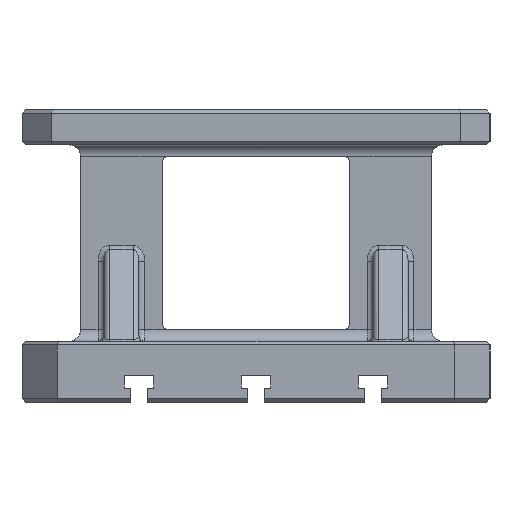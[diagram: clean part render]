
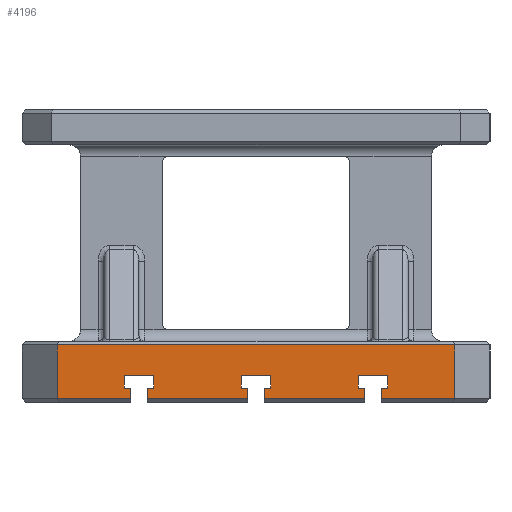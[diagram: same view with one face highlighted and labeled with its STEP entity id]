
A CAD part, left-side view. The second image highlights one B-rep face of the part: STEP entity #4196.
In plain terms, the highlighted planar face has unit normal (-1, 0, 0).
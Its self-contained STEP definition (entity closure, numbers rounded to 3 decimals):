
#141=DIRECTION('',(0.,0.,1.));
#142=VECTOR('',#141,9.);
#143=CARTESIAN_POINT('',(-400.,-107.,-23.));
#144=LINE('',#143,#142);
#145=DIRECTION('',(0.,-1.,0.));
#146=VECTOR('',#145,5.5);
#147=CARTESIAN_POINT('',(-400.,-107.,-14.));
#148=LINE('',#147,#146);
#149=DIRECTION('',(0.,0.,1.));
#150=VECTOR('',#149,11.);
#151=CARTESIAN_POINT('',(-400.,-112.5,-14.));
#152=LINE('',#151,#150);
#153=DIRECTION('',(0.,1.,0.));
#154=VECTOR('',#153,25.);
#155=CARTESIAN_POINT('',(-400.,-112.5,-3.));
#156=LINE('',#155,#154);
#157=DIRECTION('',(0.,0.,-1.));
#158=VECTOR('',#157,11.);
#159=CARTESIAN_POINT('',(-400.,-87.5,-3.));
#160=LINE('',#159,#158);
#161=DIRECTION('',(0.,-1.,0.));
#162=VECTOR('',#161,5.5);
#163=CARTESIAN_POINT('',(-400.,-87.5,-14.));
#164=LINE('',#163,#162);
#165=DIRECTION('',(0.,0.,1.));
#166=VECTOR('',#165,9.);
#167=CARTESIAN_POINT('',(-400.,-93.,-23.));
#168=LINE('',#167,#166);
#169=DIRECTION('',(0.,1.,0.));
#170=VECTOR('',#169,86.);
#171=CARTESIAN_POINT('',(-400.,-93.,-23.));
#172=LINE('',#171,#170);
#173=DIRECTION('',(0.,0.,1.));
#174=VECTOR('',#173,9.);
#175=CARTESIAN_POINT('',(-400.,-7.,-23.));
#176=LINE('',#175,#174);
#177=DIRECTION('',(0.,-1.,0.));
#178=VECTOR('',#177,5.5);
#179=CARTESIAN_POINT('',(-400.,-7.,-14.));
#180=LINE('',#179,#178);
#181=DIRECTION('',(0.,0.,1.));
#182=VECTOR('',#181,11.);
#183=CARTESIAN_POINT('',(-400.,-12.5,-14.));
#184=LINE('',#183,#182);
#185=DIRECTION('',(0.,1.,0.));
#186=VECTOR('',#185,25.);
#187=CARTESIAN_POINT('',(-400.,-12.5,-3.));
#188=LINE('',#187,#186);
#189=DIRECTION('',(0.,0.,-1.));
#190=VECTOR('',#189,11.);
#191=CARTESIAN_POINT('',(-400.,12.5,-3.));
#192=LINE('',#191,#190);
#193=DIRECTION('',(0.,-1.,0.));
#194=VECTOR('',#193,5.5);
#195=CARTESIAN_POINT('',(-400.,12.5,-14.));
#196=LINE('',#195,#194);
#197=DIRECTION('',(0.,0.,1.));
#198=VECTOR('',#197,9.);
#199=CARTESIAN_POINT('',(-400.,7.,-23.));
#200=LINE('',#199,#198);
#201=DIRECTION('',(0.,1.,0.));
#202=VECTOR('',#201,86.);
#203=CARTESIAN_POINT('',(-400.,7.,-23.));
#204=LINE('',#203,#202);
#205=DIRECTION('',(0.,0.,1.));
#206=VECTOR('',#205,9.);
#207=CARTESIAN_POINT('',(-400.,93.,-23.));
#208=LINE('',#207,#206);
#209=DIRECTION('',(0.,-1.,0.));
#210=VECTOR('',#209,5.5);
#211=CARTESIAN_POINT('',(-400.,93.,-14.));
#212=LINE('',#211,#210);
#213=DIRECTION('',(0.,0.,1.));
#214=VECTOR('',#213,11.);
#215=CARTESIAN_POINT('',(-400.,87.5,-14.));
#216=LINE('',#215,#214);
#217=DIRECTION('',(0.,1.,0.));
#218=VECTOR('',#217,25.);
#219=CARTESIAN_POINT('',(-400.,87.5,-3.));
#220=LINE('',#219,#218);
#221=DIRECTION('',(0.,0.,-1.));
#222=VECTOR('',#221,11.);
#223=CARTESIAN_POINT('',(-400.,112.5,-3.));
#224=LINE('',#223,#222);
#225=DIRECTION('',(0.,-1.,0.));
#226=VECTOR('',#225,5.5);
#227=CARTESIAN_POINT('',(-400.,112.5,-14.));
#228=LINE('',#227,#226);
#229=DIRECTION('',(0.,0.,1.));
#230=VECTOR('',#229,9.);
#231=CARTESIAN_POINT('',(-400.,107.,-23.));
#232=LINE('',#231,#230);
#233=DIRECTION('',(0.,1.,0.));
#234=VECTOR('',#233,63.);
#235=CARTESIAN_POINT('',(-400.,107.,-23.));
#236=LINE('',#235,#234);
#237=DIRECTION('',(0.,0.,-1.));
#238=VECTOR('',#237,46.);
#239=CARTESIAN_POINT('',(-400.,170.,23.));
#240=LINE('',#239,#238);
#241=DIRECTION('',(0.,-1.,0.));
#242=VECTOR('',#241,340.);
#243=CARTESIAN_POINT('',(-400.,170.,23.));
#244=LINE('',#243,#242);
#245=DIRECTION('',(0.,0.,-1.));
#246=VECTOR('',#245,46.);
#247=CARTESIAN_POINT('',(-400.,-170.,23.));
#248=LINE('',#247,#246);
#249=DIRECTION('',(0.,1.,0.));
#250=VECTOR('',#249,63.);
#251=CARTESIAN_POINT('',(-400.,-170.,-23.));
#252=LINE('',#251,#250);
#3139=CARTESIAN_POINT('',(-400.,170.,-23.));
#3141=VERTEX_POINT('',#3139);
#3169=CARTESIAN_POINT('',(-400.,-170.,-23.));
#3170=VERTEX_POINT('',#3169);
#3205=CARTESIAN_POINT('',(-400.,170.,23.));
#3206=VERTEX_POINT('',#3205);
#3215=CARTESIAN_POINT('',(-400.,-170.,23.));
#3216=VERTEX_POINT('',#3215);
#3801=CARTESIAN_POINT('',(-400.,-7.,-23.));
#3802=CARTESIAN_POINT('',(-400.,-7.,-14.));
#3803=VERTEX_POINT('',#3801);
#3804=VERTEX_POINT('',#3802);
#3805=CARTESIAN_POINT('',(-400.,-12.5,-14.));
#3806=VERTEX_POINT('',#3805);
#3807=CARTESIAN_POINT('',(-400.,-12.5,-3.));
#3808=VERTEX_POINT('',#3807);
#3809=CARTESIAN_POINT('',(-400.,12.5,-3.));
#3810=VERTEX_POINT('',#3809);
#3811=CARTESIAN_POINT('',(-400.,12.5,-14.));
#3812=VERTEX_POINT('',#3811);
#3813=CARTESIAN_POINT('',(-400.,7.,-14.));
#3814=VERTEX_POINT('',#3813);
#3815=CARTESIAN_POINT('',(-400.,7.,-23.));
#3816=VERTEX_POINT('',#3815);
#3841=CARTESIAN_POINT('',(-400.,93.,-23.));
#3842=CARTESIAN_POINT('',(-400.,93.,-14.));
#3843=VERTEX_POINT('',#3841);
#3844=VERTEX_POINT('',#3842);
#3845=CARTESIAN_POINT('',(-400.,87.5,-14.));
#3846=VERTEX_POINT('',#3845);
#3847=CARTESIAN_POINT('',(-400.,87.5,-3.));
#3848=VERTEX_POINT('',#3847);
#3849=CARTESIAN_POINT('',(-400.,112.5,-3.));
#3850=VERTEX_POINT('',#3849);
#3851=CARTESIAN_POINT('',(-400.,112.5,-14.));
#3852=VERTEX_POINT('',#3851);
#3853=CARTESIAN_POINT('',(-400.,107.,-14.));
#3854=VERTEX_POINT('',#3853);
#3855=CARTESIAN_POINT('',(-400.,107.,-23.));
#3856=VERTEX_POINT('',#3855);
#3881=CARTESIAN_POINT('',(-400.,-107.,-23.));
#3882=CARTESIAN_POINT('',(-400.,-107.,-14.));
#3883=VERTEX_POINT('',#3881);
#3884=VERTEX_POINT('',#3882);
#3885=CARTESIAN_POINT('',(-400.,-112.5,-14.));
#3886=VERTEX_POINT('',#3885);
#3887=CARTESIAN_POINT('',(-400.,-112.5,-3.));
#3888=VERTEX_POINT('',#3887);
#3889=CARTESIAN_POINT('',(-400.,-87.5,-3.));
#3890=VERTEX_POINT('',#3889);
#3891=CARTESIAN_POINT('',(-400.,-87.5,-14.));
#3892=VERTEX_POINT('',#3891);
#3893=CARTESIAN_POINT('',(-400.,-93.,-14.));
#3894=VERTEX_POINT('',#3893);
#3895=CARTESIAN_POINT('',(-400.,-93.,-23.));
#3896=VERTEX_POINT('',#3895);
#4139=CARTESIAN_POINT('',(-400.,200.,-26.));
#4140=DIRECTION('',(-1.,0.,0.));
#4141=DIRECTION('',(0.,-1.,0.));
#4142=AXIS2_PLACEMENT_3D('',#4139,#4140,#4141);
#4143=PLANE('',#4142);
#4145=ORIENTED_EDGE('',*,*,#4144,.T.);
#4147=ORIENTED_EDGE('',*,*,#4146,.T.);
#4149=ORIENTED_EDGE('',*,*,#4148,.T.);
#4151=ORIENTED_EDGE('',*,*,#4150,.T.);
#4153=ORIENTED_EDGE('',*,*,#4152,.T.);
#4155=ORIENTED_EDGE('',*,*,#4154,.T.);
#4157=ORIENTED_EDGE('',*,*,#4156,.F.);
#4158=ORIENTED_EDGE('',*,*,#4134,.T.);
#4160=ORIENTED_EDGE('',*,*,#4159,.T.);
#4162=ORIENTED_EDGE('',*,*,#4161,.T.);
#4164=ORIENTED_EDGE('',*,*,#4163,.T.);
#4166=ORIENTED_EDGE('',*,*,#4165,.T.);
#4168=ORIENTED_EDGE('',*,*,#4167,.T.);
#4170=ORIENTED_EDGE('',*,*,#4169,.T.);
#4171=ORIENTED_EDGE('',*,*,#4071,.F.);
#4172=ORIENTED_EDGE('',*,*,#4087,.T.);
#4173=ORIENTED_EDGE('',*,*,#3997,.T.);
#4175=ORIENTED_EDGE('',*,*,#4174,.T.);
#4177=ORIENTED_EDGE('',*,*,#4176,.T.);
#4179=ORIENTED_EDGE('',*,*,#4178,.T.);
#4181=ORIENTED_EDGE('',*,*,#4180,.T.);
#4183=ORIENTED_EDGE('',*,*,#4182,.T.);
#4185=ORIENTED_EDGE('',*,*,#4184,.F.);
#4186=ORIENTED_EDGE('',*,*,#4104,.T.);
#4188=ORIENTED_EDGE('',*,*,#4187,.F.);
#4190=ORIENTED_EDGE('',*,*,#4189,.T.);
#4192=ORIENTED_EDGE('',*,*,#4191,.T.);
#4193=ORIENTED_EDGE('',*,*,#4116,.T.);
#4194=EDGE_LOOP('',(#4145,#4147,#4149,#4151,#4153,#4155,#4157,#4158,#4160,#4162,
#4164,#4166,#4168,#4170,#4171,#4172,#4173,#4175,#4177,#4179,#4181,#4183,#4185,
#4186,#4188,#4190,#4192,#4193));
#4195=FACE_OUTER_BOUND('',#4194,.F.);
#4196=ADVANCED_FACE('',(#4195),#4143,.T.);
#3997=EDGE_CURVE('',#3843,#3844,#208,.T.);
#4071=EDGE_CURVE('',#3816,#3814,#200,.T.);
#4087=EDGE_CURVE('',#3816,#3843,#204,.T.);
#4104=EDGE_CURVE('',#3856,#3141,#236,.T.);
#4116=EDGE_CURVE('',#3170,#3883,#252,.T.);
#4134=EDGE_CURVE('',#3896,#3803,#172,.T.);
#4144=EDGE_CURVE('',#3883,#3884,#144,.T.);
#4146=EDGE_CURVE('',#3884,#3886,#148,.T.);
#4148=EDGE_CURVE('',#3886,#3888,#152,.T.);
#4150=EDGE_CURVE('',#3888,#3890,#156,.T.);
#4152=EDGE_CURVE('',#3890,#3892,#160,.T.);
#4154=EDGE_CURVE('',#3892,#3894,#164,.T.);
#4156=EDGE_CURVE('',#3896,#3894,#168,.T.);
#4159=EDGE_CURVE('',#3803,#3804,#176,.T.);
#4161=EDGE_CURVE('',#3804,#3806,#180,.T.);
#4163=EDGE_CURVE('',#3806,#3808,#184,.T.);
#4165=EDGE_CURVE('',#3808,#3810,#188,.T.);
#4167=EDGE_CURVE('',#3810,#3812,#192,.T.);
#4169=EDGE_CURVE('',#3812,#3814,#196,.T.);
#4174=EDGE_CURVE('',#3844,#3846,#212,.T.);
#4176=EDGE_CURVE('',#3846,#3848,#216,.T.);
#4178=EDGE_CURVE('',#3848,#3850,#220,.T.);
#4180=EDGE_CURVE('',#3850,#3852,#224,.T.);
#4182=EDGE_CURVE('',#3852,#3854,#228,.T.);
#4184=EDGE_CURVE('',#3856,#3854,#232,.T.);
#4187=EDGE_CURVE('',#3206,#3141,#240,.T.);
#4189=EDGE_CURVE('',#3206,#3216,#244,.T.);
#4191=EDGE_CURVE('',#3216,#3170,#248,.T.);
